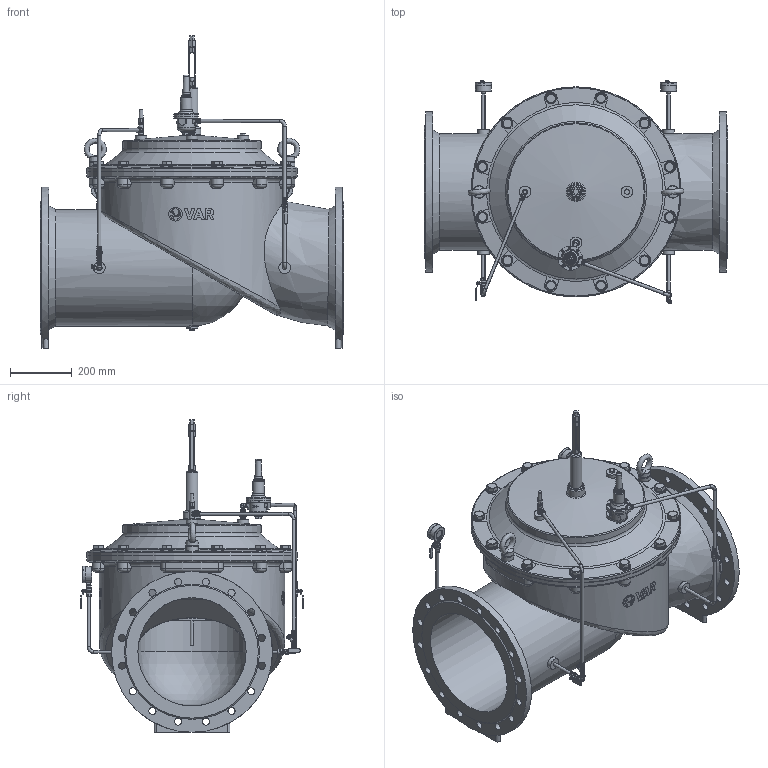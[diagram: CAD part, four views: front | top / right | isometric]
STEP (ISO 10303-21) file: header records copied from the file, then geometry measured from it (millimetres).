
FILE_DESCRIPTION(('STEP AP242'), '1');
FILE_NAME('PICO C200', '', ('UNSPECIFIED'), ('UNSPECIFIED'), 'C3D Converter', 'C3D Toolkit', '');
FILE_SCHEMA(('AP242_MANAGED_MODEL_BASED_3D_ENGINEERING_MIM_LF { 1 0 10303 442 1 1 4 }'));
Length unit declared in the file: millimetre
Products named in the file (26): М; ВР.752218.002
Assembly tree (69 placements, depth 3):
  (unnamed)
    (unnamed)
    (unnamed)
    (unnamed)
    (unnamed)
    (unnamed)
    (unnamed)
    (unnamed)
    М  x2
    (unnamed)
    (unnamed)  x4
    ВР.752218.002  x2
    (unnamed)  x6
    (unnamed)
    (unnamed)  x4
    (unnamed)
    (unnamed)
      (unnamed)
      (unnamed)
      (unnamed)  x8
      (unnamed)
    (unnamed)
    (unnamed)  x2
    (unnamed)  x2
    (unnamed)  x12
    (unnamed)  x12
Bounding box: 980 x 720 x 1010 mm (x, y, z)
Volume: 48314100 mm3; surface area: 7076922.3 mm2
Topology: 75 solids, 77 shells, 3051 faces, 7650 edges, 5006 vertices
Faces by surface type: plane 1675, cylinder 681, cone 322, extrusion 157, torus 121, bspline 84, sphere 11
Full cylindrical faces by diameter (mm): 0.518 x2, 1.2 x1, 2.5 x2, 3 x8, 4 x25, 4.2 x4, 4.5 x4, 5 x2, 6 x8, 7 x8, 8 x5, 8.7 x1, 9 x16, 9.3 x6, 9.5 x2, 10 x4, 10.2 x4, 10.8 x2, 11 x18, 11.16 x4, 11.179 x6, 11.22 x4, 11.4 x2, 11.577 x2, 12 x10, 12.5 x3, 12.573 x15, 13.157 x2, 13.8 x4, 14.4 x5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
Entity records: 119958 total; most frequent: CARTESIAN_POINT 67202, ORIENTED_EDGE 8420, DIRECTION 7740, EDGE_CURVE 4210, VERTEX_POINT 3007, AXIS2_PLACEMENT_3D 2871, EDGE_LOOP 2611, FACE_BOUND 2042
